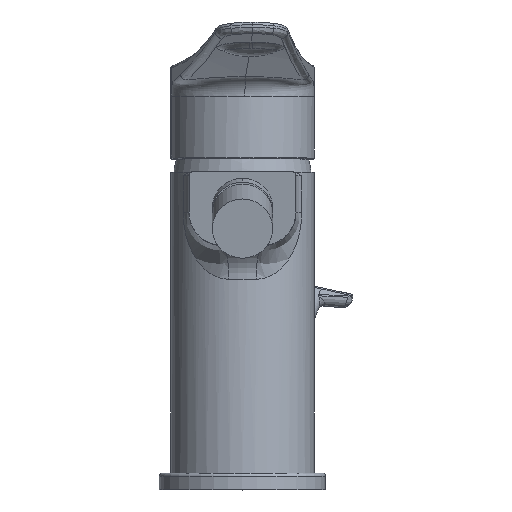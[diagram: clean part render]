
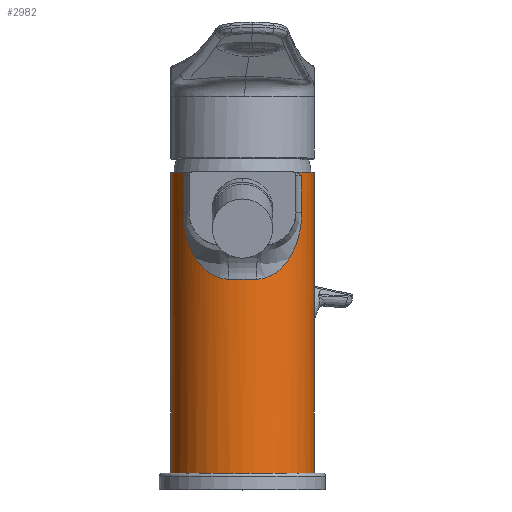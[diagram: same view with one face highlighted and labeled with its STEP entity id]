
A CAD part, top view. The second image highlights one B-rep face of the part: STEP entity #2982.
In plain terms, the highlighted cylindrical face has radius 21.5 mm (diameter 43 mm), a partial arc.
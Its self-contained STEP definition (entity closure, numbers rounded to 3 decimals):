
#11=CARTESIAN_POINT('',(0.,14.,0.));
#12=DIRECTION('',(0.,-1.,0.));
#13=DIRECTION('',(1.,0.,0.));
#14=AXIS2_PLACEMENT_3D('',#11,#12,#13);
#59=DIRECTION('',(0.,-1.,0.));
#60=VECTOR('',#59,90.);
#61=CARTESIAN_POINT('',(-21.5,104.,0.));
#62=LINE('',#61,#60);
#63=CARTESIAN_POINT('',(-17.746,103.,12.138));
#64=CARTESIAN_POINT('',(-17.481,103.18,12.526));
#65=CARTESIAN_POINT('',(-16.949,103.522,13.249));
#66=CARTESIAN_POINT('',(-16.141,103.895,14.22));
#67=CARTESIAN_POINT('',(-15.606,104.,14.793));
#68=CARTESIAN_POINT('',(-15.342,104.,15.062));
#70=DIRECTION('',(0.,1.,0.));
#71=VECTOR('',#70,11.);
#72=CARTESIAN_POINT('',(-17.746,92.,12.138));
#73=LINE('',#72,#71);
#74=CARTESIAN_POINT('',(-4.095,72.,21.106));
#75=CARTESIAN_POINT('',(-4.772,72.,20.975));
#76=CARTESIAN_POINT('',(-6.157,72.147,20.639));
#77=CARTESIAN_POINT('',(-8.313,72.881,19.874));
#78=CARTESIAN_POINT('',(-10.481,74.206,18.825));
#79=CARTESIAN_POINT('',(-12.542,76.15,17.518));
#80=CARTESIAN_POINT('',(-14.407,78.698,16.019));
#81=CARTESIAN_POINT('',(-16.047,82.045,14.36));
#82=CARTESIAN_POINT('',(-17.129,85.685,13.014));
#83=CARTESIAN_POINT('',(-17.652,89.018,12.278));
#84=CARTESIAN_POINT('',(-17.746,91.04,12.138));
#85=CARTESIAN_POINT('',(-17.746,92.,12.138));
#87=DIRECTION('',(0.,-1.,0.));
#88=VECTOR('',#87,11.);
#89=CARTESIAN_POINT('',(17.746,103.,12.138));
#90=LINE('',#89,#88);
#91=CARTESIAN_POINT('',(15.342,104.,15.062));
#92=CARTESIAN_POINT('',(15.606,104.,14.793));
#93=CARTESIAN_POINT('',(16.141,103.895,14.22));
#94=CARTESIAN_POINT('',(16.949,103.522,13.249));
#95=CARTESIAN_POINT('',(17.481,103.18,12.526));
#96=CARTESIAN_POINT('',(17.746,103.,12.138));
#98=DIRECTION('',(0.,-1.,0.));
#99=VECTOR('',#98,90.);
#100=CARTESIAN_POINT('',(21.5,104.,0.));
#101=LINE('',#100,#99);
#129=CARTESIAN_POINT('',(0.,104.,0.));
#130=DIRECTION('',(0.,1.,0.));
#131=DIRECTION('',(-1.,0.,0.));
#132=AXIS2_PLACEMENT_3D('',#129,#130,#131);
#139=CARTESIAN_POINT('',(0.,104.,0.));
#140=DIRECTION('',(0.,1.,0.));
#141=DIRECTION('',(0.714,0.,0.701));
#142=AXIS2_PLACEMENT_3D('',#139,#140,#141);
#233=CARTESIAN_POINT('',(4.095,72.,21.106));
#234=CARTESIAN_POINT('',(4.772,72.,20.975));
#235=CARTESIAN_POINT('',(6.157,72.147,20.639));
#236=CARTESIAN_POINT('',(8.313,72.881,19.874));
#237=CARTESIAN_POINT('',(10.481,74.206,18.825));
#238=CARTESIAN_POINT('',(12.542,76.15,17.518));
#239=CARTESIAN_POINT('',(14.407,78.698,16.019));
#240=CARTESIAN_POINT('',(16.047,82.045,14.36));
#241=CARTESIAN_POINT('',(17.129,85.685,13.014));
#242=CARTESIAN_POINT('',(17.652,89.018,12.278));
#243=CARTESIAN_POINT('',(17.746,91.04,12.138));
#244=CARTESIAN_POINT('',(17.746,92.,12.138));
#256=CARTESIAN_POINT('',(0.,72.,0.));
#257=DIRECTION('',(0.,1.,0.));
#258=DIRECTION('',(-0.19,0.,0.982));
#259=AXIS2_PLACEMENT_3D('',#256,#257,#258);
#2582=CARTESIAN_POINT('',(-21.5,14.,0.));
#2583=CARTESIAN_POINT('',(21.5,14.,0.));
#2584=VERTEX_POINT('',#2582);
#2585=VERTEX_POINT('',#2583);
#2609=CARTESIAN_POINT('',(4.095,72.,21.106));
#2611=VERTEX_POINT('',#2609);
#2612=CARTESIAN_POINT('',(-4.095,72.,21.106));
#2613=VERTEX_POINT('',#2612);
#2667=CARTESIAN_POINT('',(-17.746,92.,12.138));
#2668=VERTEX_POINT('',#2667);
#2669=CARTESIAN_POINT('',(-17.746,103.,12.138));
#2670=VERTEX_POINT('',#2669);
#2687=CARTESIAN_POINT('',(-15.342,104.,15.062));
#2688=VERTEX_POINT('',#2687);
#2689=CARTESIAN_POINT('',(-21.5,104.,0.));
#2690=VERTEX_POINT('',#2689);
#2691=CARTESIAN_POINT('',(21.5,104.,0.));
#2692=VERTEX_POINT('',#2691);
#2693=CARTESIAN_POINT('',(15.342,104.,15.062));
#2694=VERTEX_POINT('',#2693);
#2702=VERTEX_POINT('',#244);
#2703=CARTESIAN_POINT('',(17.746,103.,12.138));
#2704=VERTEX_POINT('',#2703);
#2952=CARTESIAN_POINT('',(0.,0.,0.));
#2953=DIRECTION('',(0.,1.,0.));
#2954=DIRECTION('',(1.,0.,0.));
#2955=AXIS2_PLACEMENT_3D('',#2952,#2953,#2954);
#2956=CYLINDRICAL_SURFACE('',#2955,21.5);
#2957=ORIENTED_EDGE('',*,*,#2879,.T.);
#2959=ORIENTED_EDGE('',*,*,#2958,.F.);
#2961=ORIENTED_EDGE('',*,*,#2960,.T.);
#2963=ORIENTED_EDGE('',*,*,#2962,.F.);
#2965=ORIENTED_EDGE('',*,*,#2964,.F.);
#2967=ORIENTED_EDGE('',*,*,#2966,.F.);
#2969=ORIENTED_EDGE('',*,*,#2968,.T.);
#2971=ORIENTED_EDGE('',*,*,#2970,.T.);
#2973=ORIENTED_EDGE('',*,*,#2972,.F.);
#2975=ORIENTED_EDGE('',*,*,#2974,.F.);
#2977=ORIENTED_EDGE('',*,*,#2976,.T.);
#2979=ORIENTED_EDGE('',*,*,#2978,.T.);
#2980=EDGE_LOOP('',(#2957,#2959,#2961,#2963,#2965,#2967,#2969,#2971,#2973,#2975,
#2977,#2979));
#2981=FACE_OUTER_BOUND('',#2980,.F.);
#2982=ADVANCED_FACE('',(#2981),#2956,.T.);
#15=CIRCLE('',#14,21.5);
#69=B_SPLINE_CURVE_WITH_KNOTS('',3,(#63,#64,#65,#66,#67,#68),.UNSPECIFIED.,.F.,
.F.,(4,1,1,4),(0.,0.333,0.667,1.),.UNSPECIFIED.);
#86=B_SPLINE_CURVE_WITH_KNOTS('',3,(#74,#75,#76,#77,#78,#79,#80,#81,#82,#83,#84,
#85),.UNSPECIFIED.,.F.,.F.,(4,1,1,1,1,1,1,1,1,4),(0.,0.111,
0.222,0.333,0.444,0.556,
0.667,0.778,0.889,1.),.UNSPECIFIED.);
#97=B_SPLINE_CURVE_WITH_KNOTS('',3,(#91,#92,#93,#94,#95,#96),.UNSPECIFIED.,.F.,
.F.,(4,1,1,4),(0.,0.333,0.667,1.),.UNSPECIFIED.);
#133=CIRCLE('',#132,21.5);
#143=CIRCLE('',#142,21.5);
#245=B_SPLINE_CURVE_WITH_KNOTS('',3,(#233,#234,#235,#236,#237,#238,#239,#240,
#241,#242,#243,#244),.UNSPECIFIED.,.F.,.F.,(4,1,1,1,1,1,1,1,1,4),(0.,
0.111,0.222,0.333,0.444,
0.556,0.667,0.778,0.889,1.),
.UNSPECIFIED.);
#260=CIRCLE('',#259,21.5);
#2879=EDGE_CURVE('',#2585,#2584,#15,.T.);
#2958=EDGE_CURVE('',#2690,#2584,#62,.T.);
#2960=EDGE_CURVE('',#2690,#2688,#133,.T.);
#2962=EDGE_CURVE('',#2670,#2688,#69,.T.);
#2964=EDGE_CURVE('',#2668,#2670,#73,.T.);
#2966=EDGE_CURVE('',#2613,#2668,#86,.T.);
#2968=EDGE_CURVE('',#2613,#2611,#260,.T.);
#2970=EDGE_CURVE('',#2611,#2702,#245,.T.);
#2972=EDGE_CURVE('',#2704,#2702,#90,.T.);
#2974=EDGE_CURVE('',#2694,#2704,#97,.T.);
#2976=EDGE_CURVE('',#2694,#2692,#143,.T.);
#2978=EDGE_CURVE('',#2692,#2585,#101,.T.);
